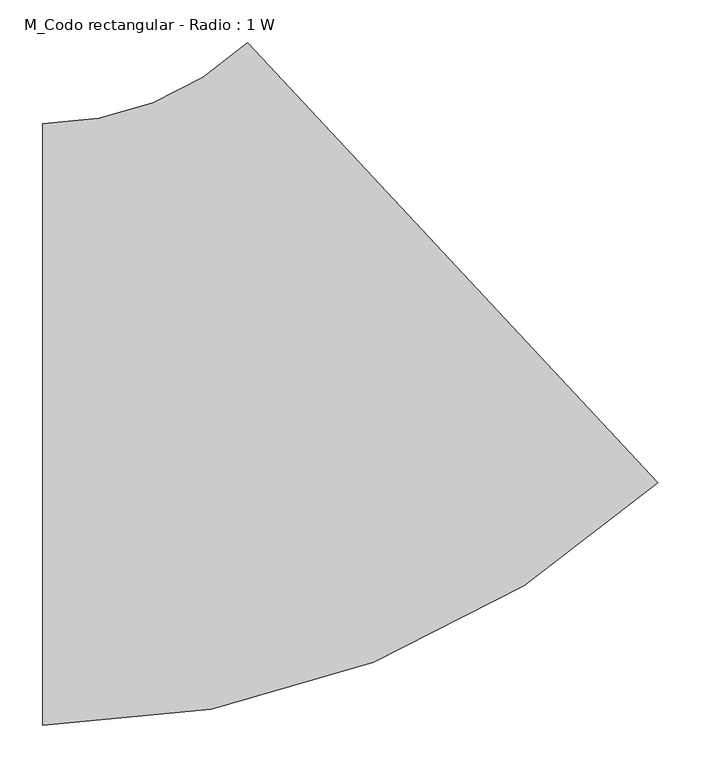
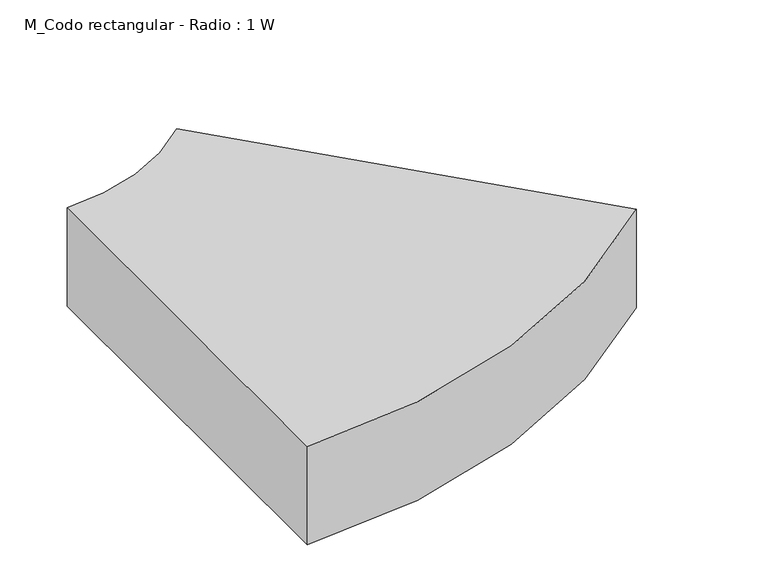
"""IFC4 building model written with IfcOpenShell, lengths in millimetres: duct fitting geometry, M_Codo rectangular - Radio : 1 W."""

from ifc_helpers import new_model, si_unit, point, frame, frame_2d, origin, place, context, project, spatial, polyline, circle_curve, trimmed, segment, composite_curve, outline, extrude, source, transform, mapped, element, save


def m_codo_rectangular_radio_1_w_f6e5c1dc(model_context):
    return source(origin(), model_context, "Body", "SweptSolid", [
        extrude(outline(composite_curve([segment(trimmed(circle_curve(frame_2d((-275.7373329, 700.0)), 1050.0), [point((440.3609451, -67.9213867))], [point((-275.7373329, -350.0))], False, "CARTESIAN"), True, "CONTINUOUS"), segment(polyline([(-275.7373329, -350.0), (-275.7373329, 350.0)]), True, "CONTINUOUS"), segment(trimmed(circle_curve(frame_2d((-275.7373329, 700.0)), 350.0), [point((-275.7373329, 350.0))], [point((-37.0379069, 444.0262044))], True, "CARTESIAN"), True, "CONTINUOUS"), segment(polyline([(-37.0379069, 444.0262044), (440.3609451, -67.9213867)]), True, "CONTINUOUS")], self_intersect=False)), frame((0.0, 0.0, -87.5), z_axis=(0.0, 0.0, 1.0), x_axis=(1.0, 0.0, 0.0)), (0.0, 0.0, 1.0), 175.0),
    ])


if __name__ == "__main__":
    model = new_model("IFC4")
    model_context = context("Model", 3, world=origin())
    ifc_project = project(units=[si_unit("LENGTHUNIT", "METRE", prefix="MILLI")], contexts=[model_context])
    site = spatial("IfcSite", under=ifc_project)
    building = spatial("IfcBuilding", under=site)
    placement = place(None, origin())
    m_codo_rectangular_radio_1_w_shape = m_codo_rectangular_radio_1_w_f6e5c1dc(model_context)
    element("IfcDuctFitting", 1, ObjectType="M_Codo rectangular - Radio : 1 W", at=placement, inside=building, context=model_context, shape_type="MappedRepresentation", body=[
        mapped(m_codo_rectangular_radio_1_w_shape, transform((0.0, 0.0, 0.0), x_axis=(1.0, 0.0, 0.0), y_axis=(0.0, 1.0, 0.0), z_axis=(0.0, 0.0, 1.0))),
    ])
    save(model, "model.ifc")
